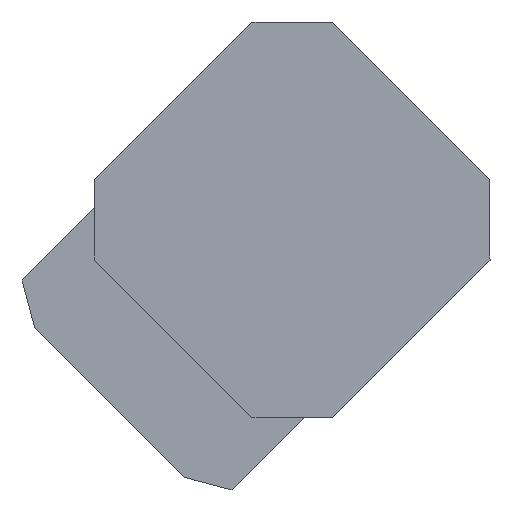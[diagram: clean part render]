
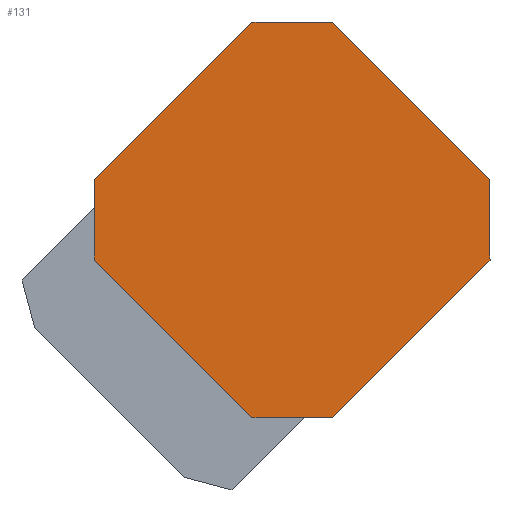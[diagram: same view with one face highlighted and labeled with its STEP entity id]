
A CAD part, front view. The second image highlights one B-rep face of the part: STEP entity #131.
In plain terms, the highlighted planar face has unit normal (0, -1, 0).
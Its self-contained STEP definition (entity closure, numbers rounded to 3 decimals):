
#17 = ORIENTED_EDGE ( 'NONE', *, *, #307, .T. ) ;
#39 = LINE ( 'NONE', #40, #41 ) ;
#40 = CARTESIAN_POINT ( 'NONE',  ( -32.368, 290., 367.895 ) ) ;
#41 = VECTOR ( 'NONE', #42, 1000. ) ;
#42 = DIRECTION ( 'NONE',  ( 0.707, 0., -0.707 ) ) ;
#71 = CARTESIAN_POINT ( 'NONE',  ( -112.105, 290., 488.104 ) ) ;
#72 = CARTESIAN_POINT ( 'NONE',  ( 8.104, 290., 567.841 ) ) ;
#84 = VERTEX_POINT ( 'NONE', #345 ) ;
#122 = EDGE_CURVE ( 'NONE', #84, #803, #368, .T. ) ;
#124 = VERTEX_POINT ( 'NONE', #387 ) ;
#131 = ADVANCED_FACE ( 'NONE', ( #403 ), #404, .F. ) ;
#162 = EDGE_CURVE ( 'NONE', #802, #655, #592, .T. ) ;
#171 = ORIENTED_EDGE ( 'NONE', *, *, #261, .T. ) ;
#185 = EDGE_CURVE ( 'NONE', #124, #220, #736, .T. ) ;
#187 = EDGE_CURVE ( 'NONE', #655, #124, #741, .T. ) ;
#207 = EDGE_CURVE ( 'NONE', #269, #84, #39, .T. ) ;
#220 = VERTEX_POINT ( 'NONE', #71 ) ;
#250 = EDGE_CURVE ( 'NONE', #220, #269, #341, .T. ) ;
#253 = EDGE_LOOP ( 'NONE', ( #17, #171, #796, #550, #338, #762, #828, #355 ) ) ;
#261 = EDGE_CURVE ( 'NONE', #838, #802, #372, .T. ) ;
#269 = VERTEX_POINT ( 'NONE', #390 ) ;
#307 = EDGE_CURVE ( 'NONE', #803, #838, #588, .T. ) ;
#338 = ORIENTED_EDGE ( 'NONE', *, *, #185, .T. ) ;
#341 = LINE ( 'NONE', #342, #343 ) ;
#342 = CARTESIAN_POINT ( 'NONE',  ( -112.105, 290., 447.632 ) ) ;
#343 = VECTOR ( 'NONE', #344, 1000. ) ;
#344 = DIRECTION ( 'NONE',  ( 0., 0., -1. ) ) ;
#345 = CARTESIAN_POINT ( 'NONE',  ( -32.368, 290., 367.895 ) ) ;
#355 = ORIENTED_EDGE ( 'NONE', *, *, #122, .T. ) ;
#368 = LINE ( 'NONE', #369, #370 ) ;
#369 = CARTESIAN_POINT ( 'NONE',  ( 8.104, 290., 367.895 ) ) ;
#370 = VECTOR ( 'NONE', #371, 1000. ) ;
#371 = DIRECTION ( 'NONE',  ( 1., 0., 0. ) ) ;
#372 = LINE ( 'NONE', #373, #374 ) ;
#373 = CARTESIAN_POINT ( 'NONE',  ( 87.841, 290., 488.104 ) ) ;
#374 = VECTOR ( 'NONE', #375, 1000. ) ;
#375 = DIRECTION ( 'NONE',  ( 0., 0., 1. ) ) ;
#382 = CARTESIAN_POINT ( 'NONE',  ( 87.841, 290., 488.104 ) ) ;
#387 = CARTESIAN_POINT ( 'NONE',  ( -32.368, 290., 567.841 ) ) ;
#388 = CARTESIAN_POINT ( 'NONE',  ( 8.104, 290., 367.895 ) ) ;
#390 = CARTESIAN_POINT ( 'NONE',  ( -112.105, 290., 447.632 ) ) ;
#403 = FACE_OUTER_BOUND ( 'NONE', #253, .T. ) ;
#404 = PLANE ( 'NONE',  #405 ) ;
#405 = AXIS2_PLACEMENT_3D ( 'NONE', #407, #408, #409 ) ;
#407 = CARTESIAN_POINT ( 'NONE',  ( 200., 290., 680. ) ) ;
#408 = DIRECTION ( 'NONE',  ( 0., 1., 0. ) ) ;
#409 = DIRECTION ( 'NONE',  ( -1., 0., 0. ) ) ;
#550 = ORIENTED_EDGE ( 'NONE', *, *, #187, .T. ) ;
#588 = LINE ( 'NONE', #589, #590 ) ;
#589 = CARTESIAN_POINT ( 'NONE',  ( 87.841, 290., 447.632 ) ) ;
#590 = VECTOR ( 'NONE', #591, 1000. ) ;
#591 = DIRECTION ( 'NONE',  ( 0.707, 0., 0.707 ) ) ;
#592 = LINE ( 'NONE', #593, #594 ) ;
#593 = CARTESIAN_POINT ( 'NONE',  ( 8.104, 290., 567.841 ) ) ;
#594 = VECTOR ( 'NONE', #595, 1000. ) ;
#595 = DIRECTION ( 'NONE',  ( -0.707, 0., 0.707 ) ) ;
#655 = VERTEX_POINT ( 'NONE', #72 ) ;
#723 = CARTESIAN_POINT ( 'NONE',  ( 87.841, 290., 447.632 ) ) ;
#736 = LINE ( 'NONE', #737, #738 ) ;
#737 = CARTESIAN_POINT ( 'NONE',  ( -112.105, 290., 488.104 ) ) ;
#738 = VECTOR ( 'NONE', #739, 1000. ) ;
#739 = DIRECTION ( 'NONE',  ( -0.707, 0., -0.707 ) ) ;
#741 = LINE ( 'NONE', #742, #745 ) ;
#742 = CARTESIAN_POINT ( 'NONE',  ( -32.368, 290., 567.841 ) ) ;
#745 = VECTOR ( 'NONE', #746, 1000. ) ;
#746 = DIRECTION ( 'NONE',  ( -1., 0., 0. ) ) ;
#762 = ORIENTED_EDGE ( 'NONE', *, *, #250, .T. ) ;
#796 = ORIENTED_EDGE ( 'NONE', *, *, #162, .T. ) ;
#802 = VERTEX_POINT ( 'NONE', #382 ) ;
#803 = VERTEX_POINT ( 'NONE', #388 ) ;
#828 = ORIENTED_EDGE ( 'NONE', *, *, #207, .T. ) ;
#838 = VERTEX_POINT ( 'NONE', #723 ) ;
